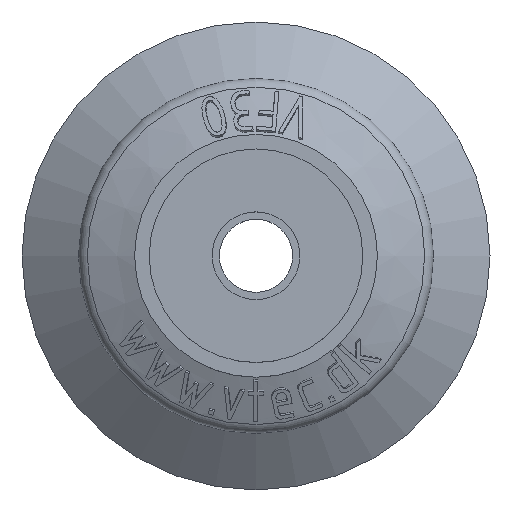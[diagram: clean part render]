
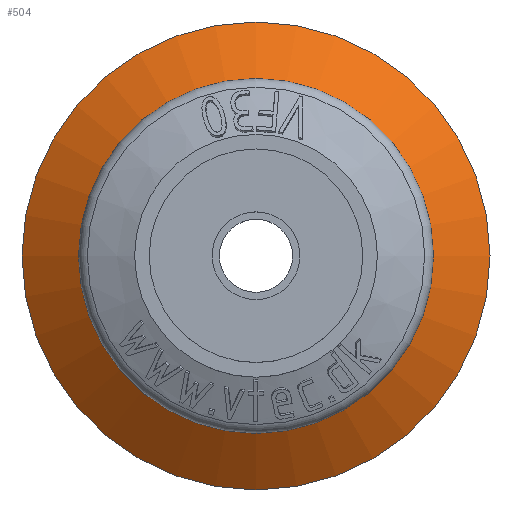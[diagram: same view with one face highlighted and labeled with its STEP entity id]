
A CAD part, top view. The second image highlights one B-rep face of the part: STEP entity #504.
In plain terms, the highlighted conical face has half-angle 53.66 degrees and reference radius 12.136 mm.
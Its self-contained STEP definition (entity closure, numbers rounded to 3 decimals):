
#504 = ADVANCED_FACE( '', ( #1081, #1082 ), #1083, .T. );
#1081 = FACE_OUTER_BOUND( '', #4043, .T. );
#1082 = FACE_BOUND( '', #4044, .T. );
#1083 = CONICAL_SURFACE( '', #4045, 12.136, 0.937 );
#4043 = EDGE_LOOP( '', ( #6414 ) );
#4044 = EDGE_LOOP( '', ( #6415 ) );
#4045 = AXIS2_PLACEMENT_3D( '', #6416, #6417, #6418 );
#6414 = ORIENTED_EDGE( '', *, *, #7328, .T. );
#6415 = ORIENTED_EDGE( '', *, *, #7391, .F. );
#6416 = CARTESIAN_POINT( '', ( 0., 0., -2.158 ) );
#6417 = DIRECTION( '', ( 0., 0., -1. ) );
#6418 = DIRECTION( '', ( -1., 0., 0. ) );
#7328 = EDGE_CURVE( '', #8270, #8270, #8271, .F. );
#7391 = EDGE_CURVE( '', #8350, #8350, #8351, .T. );
#8270 = VERTEX_POINT( '', #10822 );
#8271 = CIRCLE( '', #10823, 16. );
#8350 = VERTEX_POINT( '', #11163 );
#8351 = CIRCLE( '', #11164, 12.136 );
#10822 = CARTESIAN_POINT( '', ( -16., 0., -5. ) );
#10823 = AXIS2_PLACEMENT_3D( '', #11460, #11461, #11462 );
#11163 = CARTESIAN_POINT( '', ( 12.136, 0., -2.158 ) );
#11164 = AXIS2_PLACEMENT_3D( '', #11476, #11477, #11478 );
#11460 = CARTESIAN_POINT( '', ( 0., 0., -5. ) );
#11461 = DIRECTION( '', ( 0., 0., -1. ) );
#11462 = DIRECTION( '', ( -1., 0., 0. ) );
#11476 = CARTESIAN_POINT( '', ( 0., 0., -2.158 ) );
#11477 = DIRECTION( '', ( 0., 0., 1. ) );
#11478 = DIRECTION( '', ( 1., 0., 0. ) );
